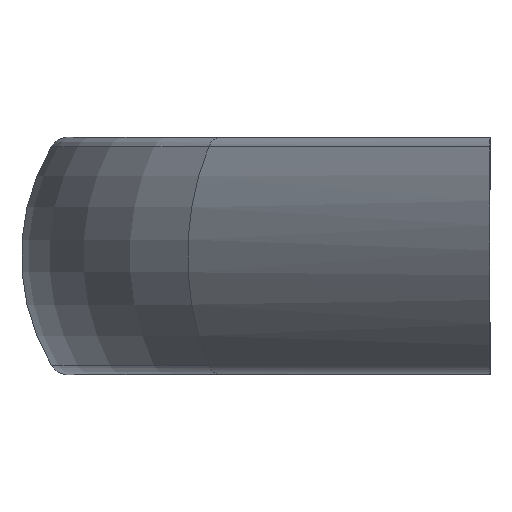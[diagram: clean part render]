
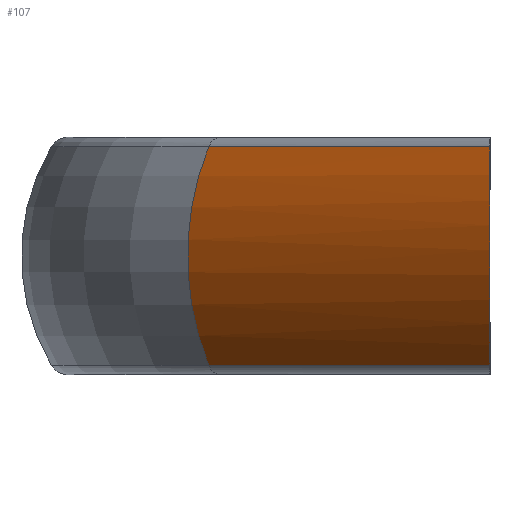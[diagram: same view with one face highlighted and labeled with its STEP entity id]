
A CAD part, left-side view. The second image highlights one B-rep face of the part: STEP entity #107.
In plain terms, the highlighted cylindrical face has radius 32.5 mm (diameter 65 mm), a partial arc.
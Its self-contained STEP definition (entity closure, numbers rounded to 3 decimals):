
#107 = ADVANCED_FACE( '', ( #181 ), #182, .T. );
#181 = FACE_OUTER_BOUND( '', #263, .T. );
#182 = CYLINDRICAL_SURFACE( '', #264, 32.5 );
#263 = EDGE_LOOP( '', ( #512, #513, #514, #515 ) );
#264 = AXIS2_PLACEMENT_3D( '', #516, #517, #518 );
#512 = ORIENTED_EDGE( '', *, *, #644, .F. );
#513 = ORIENTED_EDGE( '', *, *, #643, .T. );
#514 = ORIENTED_EDGE( '', *, *, #623, .F. );
#515 = ORIENTED_EDGE( '', *, *, #645, .F. );
#516 = CARTESIAN_POINT( '', ( -364.656, -83.236, 0. ) );
#517 = DIRECTION( '', ( -0.707, -0.707, 0. ) );
#518 = DIRECTION( '', ( -0.707, 0.707, 0. ) );
#623 = EDGE_CURVE( '', #748, #751, #752, .T. );
#643 = EDGE_CURVE( '', #777, #751, #779, .T. );
#644 = EDGE_CURVE( '', #777, #780, #781, .T. );
#645 = EDGE_CURVE( '', #780, #748, #782, .T. );
#748 = VERTEX_POINT( '', #904 );
#751 = VERTEX_POINT( '', #907 );
#752 = CIRCLE( '', #908, 32.5 );
#777 = VERTEX_POINT( '', #939 );
#779 = LINE( '', #941, #942 );
#780 = VERTEX_POINT( '', #943 );
#781 = ELLIPSE( '', #944, 45.962, 32.5 );
#782 = LINE( '', #945, #946 );
#904 = CARTESIAN_POINT( '', ( -278.379, 42.619, -16.525 ) );
#907 = CARTESIAN_POINT( '', ( -278.379, 42.619, 16.525 ) );
#908 = AXIS2_PLACEMENT_3D( '', #1088, #1089, #1090 );
#939 = CARTESIAN_POINT( '', ( -320.997, 0., 16.525 ) );
#941 = CARTESIAN_POINT( '', ( -384.445, -63.447, 16.525 ) );
#942 = VECTOR( '', #1136, 1000. );
#943 = CARTESIAN_POINT( '', ( -320.997, 0., -16.525 ) );
#944 = AXIS2_PLACEMENT_3D( '', #1137, #1138, #1139 );
#945 = CARTESIAN_POINT( '', ( -384.445, -63.447, -16.525 ) );
#946 = VECTOR( '', #1140, 1000. );
#1088 = CARTESIAN_POINT( '', ( -258.59, 22.83, 0. ) );
#1089 = DIRECTION( '', ( 0.707, 0.707, 0. ) );
#1090 = DIRECTION( '', ( 0., 0., -1. ) );
#1136 = DIRECTION( '', ( 0.707, 0.707, 0. ) );
#1137 = CARTESIAN_POINT( '', ( -281.42, 0., 0. ) );
#1138 = DIRECTION( '', ( 0., -1., 0. ) );
#1139 = DIRECTION( '', ( 1., 0., 0. ) );
#1140 = DIRECTION( '', ( 0.707, 0.707, 0. ) );
